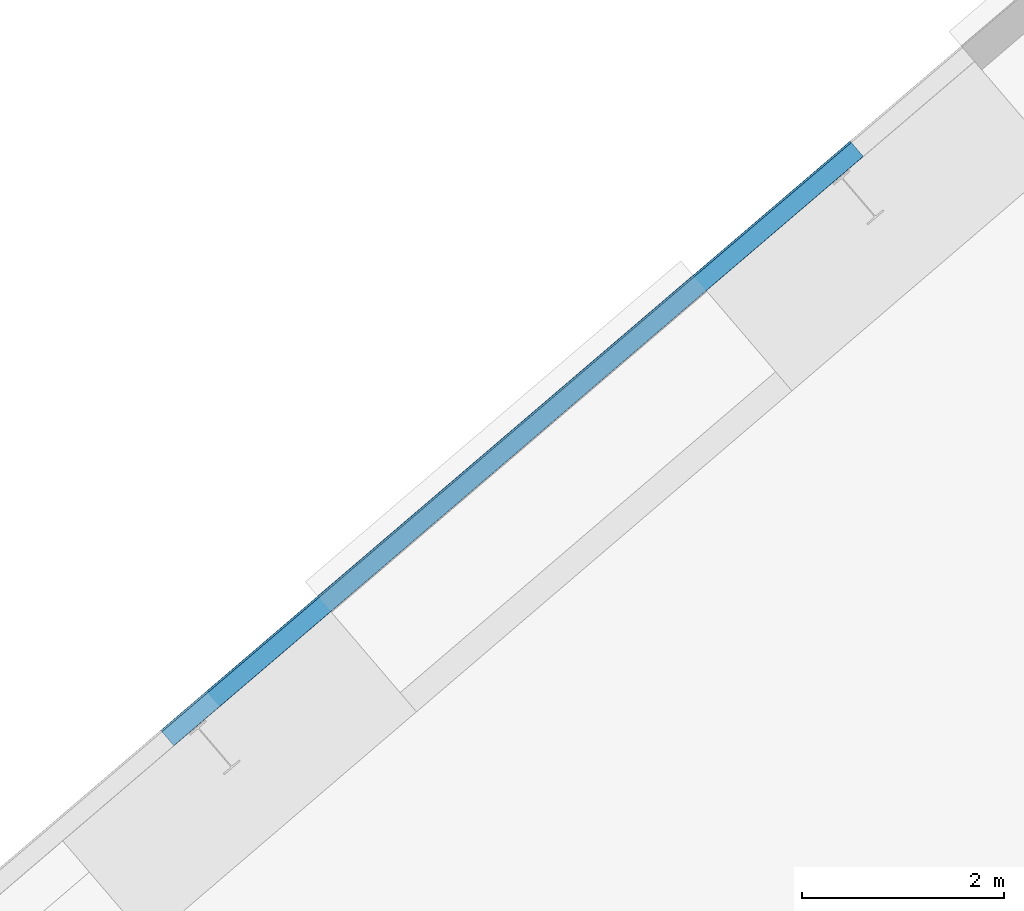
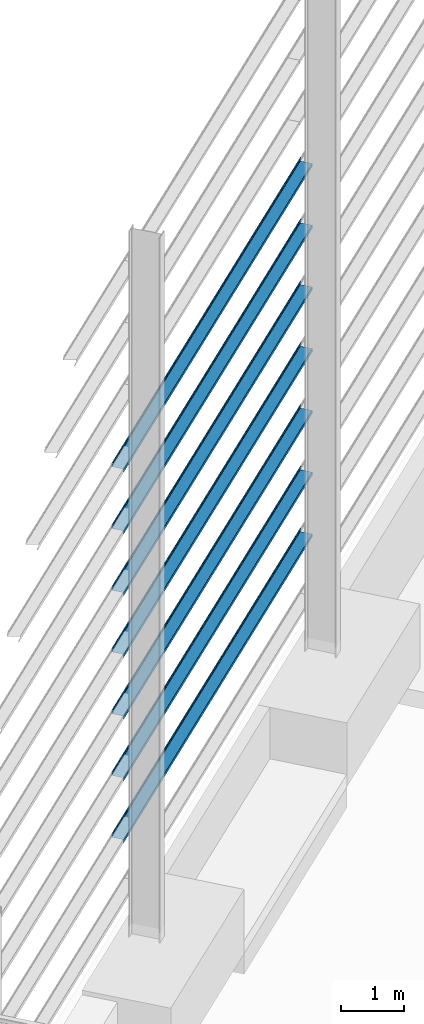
# One storey, part 17 of 41: 7 beams, 1 element without a shape of its own.
"""IFC2X3 building model written with IfcOpenShell, lengths in millimetres."""

from ifc_helpers import new_model, entity, si_unit, converted_unit, derived_unit, direction, frame, frame_2d, origin, place, context, subcontext, project, spatial, polyline, circle_curve, parameter, trimmed, segment, composite_curve, outline, extrude, material, type_object, element, aggregate, save


model = new_model("IFC2X3")

# Units and contexts
model_context = context("Model", 3, precision=0.01, world=origin(), true_north=direction((6.123031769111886e-17, 1.0)))
body_context = subcontext(model_context, "Body", "Model", "MODEL_VIEW")
ifc_project = project(units=[si_unit("LENGTHUNIT", "METRE", prefix="MILLI"), si_unit("AREAUNIT", "SQUARE_METRE"), si_unit("VOLUMEUNIT", "CUBIC_METRE"), converted_unit("PLANEANGLEUNIT", "DEGREE", entity("IfcRatioMeasure", 0.017453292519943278), si_unit("PLANEANGLEUNIT", "RADIAN"), dimensions=[0, 0, 0, 0, 0, 0, 0]), si_unit("MASSUNIT", "GRAM", prefix="KILO"), derived_unit("MASSDENSITYUNIT", [(si_unit("MASSUNIT", "GRAM", prefix="KILO"), 1), (si_unit("LENGTHUNIT", "METRE"), -3)]), derived_unit("MOMENTOFINERTIAUNIT", [(si_unit("LENGTHUNIT", "METRE"), 4)]), si_unit("TIMEUNIT", "SECOND"), si_unit("FREQUENCYUNIT", "HERTZ"), si_unit("THERMODYNAMICTEMPERATUREUNIT", "DEGREE_CELSIUS"), derived_unit("THERMALTRANSMITTANCEUNIT", [(si_unit("MASSUNIT", "GRAM", prefix="KILO"), 1), (si_unit("THERMODYNAMICTEMPERATUREUNIT", "KELVIN"), -1), (si_unit("TIMEUNIT", "SECOND"), -3)]), derived_unit("VOLUMETRICFLOWRATEUNIT", [(si_unit("LENGTHUNIT", "METRE"), 3), (si_unit("TIMEUNIT", "SECOND"), -1)]), derived_unit("MASSFLOWRATEUNIT", [(si_unit("MASSUNIT", "GRAM", prefix="KILO"), 1), (si_unit("TIMEUNIT", "SECOND"), -1)]), derived_unit("ROTATIONALFREQUENCYUNIT", [(si_unit("TIMEUNIT", "SECOND"), -1)]), si_unit("ELECTRICCURRENTUNIT", "AMPERE"), si_unit("ELECTRICVOLTAGEUNIT", "VOLT"), si_unit("POWERUNIT", "WATT"), si_unit("FORCEUNIT", "NEWTON", prefix="KILO"), si_unit("ILLUMINANCEUNIT", "LUX"), si_unit("LUMINOUSFLUXUNIT", "LUMEN"), si_unit("LUMINOUSINTENSITYUNIT", "CANDELA"), derived_unit("USERDEFINED", [(si_unit("MASSUNIT", "GRAM", prefix="KILO"), -1), (si_unit("LENGTHUNIT", "METRE"), -2), (si_unit("TIMEUNIT", "SECOND"), 3), (si_unit("LUMINOUSFLUXUNIT", "LUMEN"), 1)]), derived_unit("SOUNDPOWERUNIT", [(si_unit("MASSUNIT", "GRAM", prefix="KILO"), 1), (si_unit("LENGTHUNIT", "METRE"), 2), (si_unit("TIMEUNIT", "SECOND"), -3)]), derived_unit("LINEARVELOCITYUNIT", [(si_unit("LENGTHUNIT", "METRE"), 1), (si_unit("TIMEUNIT", "SECOND"), -1)]), si_unit("PRESSUREUNIT", "PASCAL"), derived_unit("USERDEFINED", [(si_unit("LENGTHUNIT", "METRE"), -2), (si_unit("MASSUNIT", "GRAM", prefix="KILO"), 1), (si_unit("TIMEUNIT", "SECOND"), -2)]), derived_unit("LINEARFORCEUNIT", [(si_unit("MASSUNIT", "GRAM", prefix="KILO"), 1), (si_unit("LENGTHUNIT", "METRE"), 1), (si_unit("TIMEUNIT", "SECOND"), -2), (si_unit("LENGTHUNIT", "METRE"), -1)]), derived_unit("PLANARFORCEUNIT", [(si_unit("MASSUNIT", "GRAM", prefix="KILO"), 1), (si_unit("LENGTHUNIT", "METRE"), 1), (si_unit("TIMEUNIT", "SECOND"), -2), (si_unit("LENGTHUNIT", "METRE"), -2)])], contexts=[model_context])

# Site, building, storey
site_placement = place(None, frame((962.4174930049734, -6014.433753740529, 0.0), z_axis=(0.0, 0.0, 1.0), x_axis=(0.7601792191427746, 0.649713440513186, 0.0)))
site = spatial("IfcSite", under=ifc_project, at=site_placement, Name="Default", CompositionType="ELEMENT")
building_placement = place(site_placement, origin())
building = spatial("IfcBuilding", under=site, at=building_placement, CompositionType="ELEMENT")
storey_placement = place(building_placement, origin())
storey = spatial("IfcBuildingStorey", under=building, at=storey_placement, Name="Datum", CompositionType="ELEMENT", Elevation=0.0)

# Assembly, beams
assembly_placement = place(building_placement, origin())
assembly = element("IfcElementAssembly", 1, at=assembly_placement, inside=storey, Name="Structural Beam System:Structural Beam System 1", ObjectType="Structural Beam System:Structural Beam System 1", AssemblyPlace="NOTDEFINED", PredefinedType="BEAM_GRID")
ifc_material = material(Name="Metal - Steel - 345 MPa")
beam_type = type_object("IfcBeamType", Name="ADSK_AU_Light Gauge-Zeds:Z20012", PredefinedType="NOTDEFINED")
beam_1_placement = place(building_placement, frame((162039.31020470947, 3669.071917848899, 9013.499999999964)))
beam_1 = element("IfcBeam", 2, at=beam_1_placement, type_object=beam_type, material=ifc_material, Name="ADSK_AU_Light Gauge-Zeds:Z20012", ObjectType="ADSK_AU_Light Gauge-Zeds:Z20012", context=body_context, shape_type="SweptSolid", body=[
    extrude(outline(composite_curve([segment(polyline([(6.4400000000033, -101.50000000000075), (63.24000000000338, -101.50000000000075)]), True, "CONTINUOUS"), segment(trimmed(circle_curve(frame_2d((63.24000000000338, -98.29999999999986), x_axis=(0.0, -1.0)), 3.2000000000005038), [parameter(0.0)], [parameter(89.9999999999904)], True, "PARAMETER"), True, "CONTINUOUS"), segment(polyline([(66.44000000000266, -98.3000000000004), (66.44000000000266, -82.0)]), True, "CONTINUOUS"), segment(polyline([(66.44000000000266, -82.0), (65.24000000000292, -82.0)]), True, "CONTINUOUS"), segment(polyline([(65.24000000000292, -82.0), (65.24000000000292, -98.3000000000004)]), True, "CONTINUOUS"), segment(trimmed(circle_curve(frame_2d((63.24000000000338, -98.30000000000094), x_axis=(1.0, 0.0)), 1.9999999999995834), [parameter(269.99999999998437)], [parameter(0.0)], True, "PARAMETER"), False, "CONTINUOUS"), segment(polyline([(63.24000000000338, -100.30000000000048), (6.4400000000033, -100.30000000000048)]), True, "CONTINUOUS"), segment(trimmed(circle_curve(frame_2d((6.4400000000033, -98.30000000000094), x_axis=(0.0, -1.0)), 1.9999999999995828), [parameter(269.99999999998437)], [parameter(0.0)], True, "PARAMETER"), False, "CONTINUOUS"), segment(polyline([(4.440000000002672, -98.3000000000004), (4.440000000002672, 98.29999999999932)]), True, "CONTINUOUS"), segment(trimmed(circle_curve(frame_2d((1.2400000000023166, 98.29999999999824), x_axis=(1.0, 0.0)), 3.2000000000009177), [parameter(0.0)], [parameter(89.9999999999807)], True, "PARAMETER"), True, "CONTINUOUS"), segment(polyline([(1.2400000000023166, 101.49999999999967), (-68.35999999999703, 101.49999999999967)]), True, "CONTINUOUS"), segment(trimmed(circle_curve(frame_2d((-68.35999999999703, 98.29999999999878), x_axis=(0.0, 1.0)), 3.2000000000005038), [parameter(0.0)], [parameter(89.9999999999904)], True, "PARAMETER"), True, "CONTINUOUS"), segment(polyline([(-71.55999999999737, 98.29999999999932), (-71.55999999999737, 82.0)]), True, "CONTINUOUS"), segment(polyline([(-71.55999999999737, 82.0), (-70.35999999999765, 82.0)]), True, "CONTINUOUS"), segment(polyline([(-70.35999999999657, 82.0), (-70.35999999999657, 98.29999999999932)]), True, "CONTINUOUS"), segment(trimmed(circle_curve(frame_2d((-68.35999999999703, 98.29999999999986), x_axis=(-1.0, 0.0)), 1.9999999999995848), [parameter(269.99999999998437)], [parameter(0.0)], True, "PARAMETER"), False, "CONTINUOUS"), segment(polyline([(-68.35999999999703, 100.2999999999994), (1.2400000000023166, 100.2999999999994)]), True, "CONTINUOUS"), segment(trimmed(circle_curve(frame_2d((1.2400000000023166, 98.29999999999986), x_axis=(0.0, 1.0)), 1.999999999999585), [parameter(269.99999999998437)], [parameter(0.0)], True, "PARAMETER"), False, "CONTINUOUS"), segment(polyline([(3.2400000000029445, 98.29999999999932), (3.2400000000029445, -98.3000000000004)]), True, "CONTINUOUS"), segment(trimmed(circle_curve(frame_2d((6.4400000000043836, -98.29999999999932), x_axis=(-1.0, 0.0)), 3.2000000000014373), [parameter(0.0)], [parameter(89.99999999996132)], True, "PARAMETER"), True, "CONTINUOUS")], self_intersect=False)), frame((0.14999999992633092, 101.50000000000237, 4.440000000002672), z_axis=(1.0, 0.0, 0.0), x_axis=(0.0, 0.0, -1.0)), (0.0, 0.0, 1.0), 8999.000000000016),
])
beam_2_placement = place(building_placement, frame((162039.31020470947, 3669.071917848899, 7813.499999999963)))
beam_2 = element("IfcBeam", 3, at=beam_2_placement, type_object=beam_type, material=ifc_material, Name="ADSK_AU_Light Gauge-Zeds:Z20012", ObjectType="ADSK_AU_Light Gauge-Zeds:Z20012", context=body_context, shape_type="SweptSolid", body=[
    extrude(outline(composite_curve([segment(polyline([(6.440000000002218, -101.50000000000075), (63.2400000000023, -101.50000000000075)]), True, "CONTINUOUS"), segment(trimmed(circle_curve(frame_2d((63.2400000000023, -98.29999999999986), x_axis=(0.0, -1.0)), 3.2000000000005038), [parameter(0.0)], [parameter(89.9999999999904)], True, "PARAMETER"), True, "CONTINUOUS"), segment(polyline([(66.44000000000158, -98.3000000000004), (66.44000000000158, -82.0)]), True, "CONTINUOUS"), segment(polyline([(66.44000000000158, -82.0), (65.24000000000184, -82.0)]), True, "CONTINUOUS"), segment(polyline([(65.24000000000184, -82.0), (65.24000000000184, -98.3000000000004)]), True, "CONTINUOUS"), segment(trimmed(circle_curve(frame_2d((63.2400000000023, -98.30000000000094), x_axis=(1.0, 0.0)), 1.9999999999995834), [parameter(269.99999999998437)], [parameter(0.0)], True, "PARAMETER"), False, "CONTINUOUS"), segment(polyline([(63.2400000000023, -100.30000000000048), (6.440000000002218, -100.30000000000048)]), True, "CONTINUOUS"), segment(trimmed(circle_curve(frame_2d((6.440000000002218, -98.30000000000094), x_axis=(0.0, -1.0)), 1.9999999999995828), [parameter(269.99999999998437)], [parameter(0.0)], True, "PARAMETER"), False, "CONTINUOUS"), segment(polyline([(4.440000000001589, -98.3000000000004), (4.440000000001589, 98.29999999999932)]), True, "CONTINUOUS"), segment(trimmed(circle_curve(frame_2d((1.240000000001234, 98.29999999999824), x_axis=(1.0, 0.0)), 3.2000000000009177), [parameter(0.0)], [parameter(89.9999999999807)], True, "PARAMETER"), True, "CONTINUOUS"), segment(polyline([(1.240000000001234, 101.49999999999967), (-68.35999999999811, 101.49999999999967)]), True, "CONTINUOUS"), segment(trimmed(circle_curve(frame_2d((-68.35999999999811, 98.29999999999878), x_axis=(0.0, 1.0)), 3.2000000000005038), [parameter(0.0)], [parameter(89.9999999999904)], True, "PARAMETER"), True, "CONTINUOUS"), segment(polyline([(-71.55999999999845, 98.29999999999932), (-71.55999999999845, 82.0)]), True, "CONTINUOUS"), segment(polyline([(-71.55999999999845, 82.0), (-70.35999999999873, 82.0)]), True, "CONTINUOUS"), segment(polyline([(-70.35999999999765, 82.0), (-70.35999999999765, 98.29999999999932)]), True, "CONTINUOUS"), segment(trimmed(circle_curve(frame_2d((-68.35999999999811, 98.29999999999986), x_axis=(-1.0, 0.0)), 1.9999999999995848), [parameter(269.99999999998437)], [parameter(0.0)], True, "PARAMETER"), False, "CONTINUOUS"), segment(polyline([(-68.35999999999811, 100.2999999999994), (1.240000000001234, 100.2999999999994)]), True, "CONTINUOUS"), segment(trimmed(circle_curve(frame_2d((1.240000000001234, 98.29999999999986), x_axis=(0.0, 1.0)), 1.999999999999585), [parameter(269.99999999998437)], [parameter(0.0)], True, "PARAMETER"), False, "CONTINUOUS"), segment(polyline([(3.240000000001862, 98.29999999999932), (3.240000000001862, -98.3000000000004)]), True, "CONTINUOUS"), segment(trimmed(circle_curve(frame_2d((6.4400000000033, -98.29999999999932), x_axis=(-1.0, 0.0)), 3.2000000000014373), [parameter(0.0)], [parameter(89.99999999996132)], True, "PARAMETER"), True, "CONTINUOUS")], self_intersect=False)), frame((0.14999999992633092, 101.50000000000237, 4.440000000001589), z_axis=(1.0, 0.0, 0.0), x_axis=(0.0, 0.0, -1.0)), (0.0, 0.0, 1.0), 8999.000000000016),
])
beam_3_placement = place(building_placement, frame((162039.31020470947, 3669.071917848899, 6613.499999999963)))
beam_3 = element("IfcBeam", 4, at=beam_3_placement, type_object=beam_type, material=ifc_material, Name="ADSK_AU_Light Gauge-Zeds:Z20012", ObjectType="ADSK_AU_Light Gauge-Zeds:Z20012", context=body_context, shape_type="SweptSolid", body=[
    extrude(outline(composite_curve([segment(polyline([(6.440000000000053, -101.50000000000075), (63.24000000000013, -101.50000000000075)]), True, "CONTINUOUS"), segment(trimmed(circle_curve(frame_2d((63.24000000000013, -98.29999999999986), x_axis=(0.0, -1.0)), 3.2000000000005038), [parameter(0.0)], [parameter(89.9999999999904)], True, "PARAMETER"), True, "CONTINUOUS"), segment(polyline([(66.43999999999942, -98.3000000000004), (66.43999999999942, -82.0)]), True, "CONTINUOUS"), segment(polyline([(66.43999999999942, -82.0), (65.23999999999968, -82.0)]), True, "CONTINUOUS"), segment(polyline([(65.23999999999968, -82.0), (65.23999999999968, -98.3000000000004)]), True, "CONTINUOUS"), segment(trimmed(circle_curve(frame_2d((63.24000000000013, -98.30000000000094), x_axis=(1.0, 0.0)), 1.9999999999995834), [parameter(269.99999999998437)], [parameter(0.0)], True, "PARAMETER"), False, "CONTINUOUS"), segment(polyline([(63.24000000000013, -100.30000000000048), (6.440000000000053, -100.30000000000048)]), True, "CONTINUOUS"), segment(trimmed(circle_curve(frame_2d((6.440000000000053, -98.30000000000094), x_axis=(0.0, -1.0)), 1.9999999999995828), [parameter(269.99999999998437)], [parameter(0.0)], True, "PARAMETER"), False, "CONTINUOUS"), segment(polyline([(4.439999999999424, -98.3000000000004), (4.439999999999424, 98.29999999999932)]), True, "CONTINUOUS"), segment(trimmed(circle_curve(frame_2d((1.2399999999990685, 98.29999999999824), x_axis=(1.0, 0.0)), 3.2000000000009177), [parameter(0.0)], [parameter(89.9999999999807)], True, "PARAMETER"), True, "CONTINUOUS"), segment(polyline([(1.2399999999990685, 101.49999999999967), (-68.36000000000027, 101.49999999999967)]), True, "CONTINUOUS"), segment(trimmed(circle_curve(frame_2d((-68.36000000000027, 98.29999999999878), x_axis=(0.0, 1.0)), 3.2000000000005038), [parameter(0.0)], [parameter(89.9999999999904)], True, "PARAMETER"), True, "CONTINUOUS"), segment(polyline([(-71.56000000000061, 98.29999999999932), (-71.56000000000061, 82.0)]), True, "CONTINUOUS"), segment(polyline([(-71.56000000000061, 82.0), (-70.3600000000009, 82.0)]), True, "CONTINUOUS"), segment(polyline([(-70.35999999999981, 82.0), (-70.35999999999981, 98.29999999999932)]), True, "CONTINUOUS"), segment(trimmed(circle_curve(frame_2d((-68.36000000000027, 98.29999999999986), x_axis=(-1.0, 0.0)), 1.9999999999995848), [parameter(269.99999999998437)], [parameter(0.0)], True, "PARAMETER"), False, "CONTINUOUS"), segment(polyline([(-68.36000000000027, 100.2999999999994), (1.2399999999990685, 100.2999999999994)]), True, "CONTINUOUS"), segment(trimmed(circle_curve(frame_2d((1.2399999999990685, 98.29999999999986), x_axis=(0.0, 1.0)), 1.999999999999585), [parameter(269.99999999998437)], [parameter(0.0)], True, "PARAMETER"), False, "CONTINUOUS"), segment(polyline([(3.2399999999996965, 98.29999999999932), (3.2399999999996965, -98.3000000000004)]), True, "CONTINUOUS"), segment(trimmed(circle_curve(frame_2d((6.440000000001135, -98.29999999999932), x_axis=(-1.0, 0.0)), 3.2000000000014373), [parameter(0.0)], [parameter(89.99999999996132)], True, "PARAMETER"), True, "CONTINUOUS")], self_intersect=False)), frame((0.14999999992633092, 101.50000000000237, 4.439999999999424), z_axis=(1.0, 0.0, 0.0), x_axis=(0.0, 0.0, -1.0)), (0.0, 0.0, 1.0), 8999.000000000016),
])
beam_4_placement = place(building_placement, frame((162039.31020470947, 3669.071917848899, 5413.499999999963)))
beam_4 = element("IfcBeam", 5, at=beam_4_placement, type_object=beam_type, material=ifc_material, Name="ADSK_AU_Light Gauge-Zeds:Z20012", ObjectType="ADSK_AU_Light Gauge-Zeds:Z20012", context=body_context, shape_type="SweptSolid", body=[
    extrude(outline(composite_curve([segment(polyline([(6.439999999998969, -101.50000000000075), (63.23999999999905, -101.50000000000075)]), True, "CONTINUOUS"), segment(trimmed(circle_curve(frame_2d((63.23999999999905, -98.29999999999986), x_axis=(0.0, -1.0)), 3.2000000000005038), [parameter(0.0)], [parameter(89.9999999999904)], True, "PARAMETER"), True, "CONTINUOUS"), segment(polyline([(66.43999999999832, -98.3000000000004), (66.43999999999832, -82.0)]), True, "CONTINUOUS"), segment(polyline([(66.43999999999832, -82.0), (65.23999999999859, -82.0)]), True, "CONTINUOUS"), segment(polyline([(65.23999999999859, -82.0), (65.23999999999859, -98.3000000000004)]), True, "CONTINUOUS"), segment(trimmed(circle_curve(frame_2d((63.23999999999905, -98.30000000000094), x_axis=(1.0, 0.0)), 1.9999999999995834), [parameter(269.99999999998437)], [parameter(0.0)], True, "PARAMETER"), False, "CONTINUOUS"), segment(polyline([(63.23999999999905, -100.30000000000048), (6.439999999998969, -100.30000000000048)]), True, "CONTINUOUS"), segment(trimmed(circle_curve(frame_2d((6.439999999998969, -98.30000000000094), x_axis=(0.0, -1.0)), 1.9999999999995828), [parameter(269.99999999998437)], [parameter(0.0)], True, "PARAMETER"), False, "CONTINUOUS"), segment(polyline([(4.439999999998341, -98.3000000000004), (4.439999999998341, 98.29999999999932)]), True, "CONTINUOUS"), segment(trimmed(circle_curve(frame_2d((1.2399999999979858, 98.29999999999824), x_axis=(1.0, 0.0)), 3.2000000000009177), [parameter(0.0)], [parameter(89.9999999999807)], True, "PARAMETER"), True, "CONTINUOUS"), segment(polyline([(1.2399999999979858, 101.49999999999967), (-68.36000000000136, 101.49999999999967)]), True, "CONTINUOUS"), segment(trimmed(circle_curve(frame_2d((-68.36000000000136, 98.29999999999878), x_axis=(0.0, 1.0)), 3.2000000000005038), [parameter(0.0)], [parameter(89.9999999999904)], True, "PARAMETER"), True, "CONTINUOUS"), segment(polyline([(-71.56000000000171, 98.29999999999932), (-71.56000000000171, 82.0)]), True, "CONTINUOUS"), segment(polyline([(-71.56000000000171, 82.0), (-70.36000000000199, 82.0)]), True, "CONTINUOUS"), segment(polyline([(-70.36000000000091, 82.0), (-70.36000000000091, 98.29999999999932)]), True, "CONTINUOUS"), segment(trimmed(circle_curve(frame_2d((-68.36000000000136, 98.29999999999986), x_axis=(-1.0, 0.0)), 1.9999999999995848), [parameter(269.99999999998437)], [parameter(0.0)], True, "PARAMETER"), False, "CONTINUOUS"), segment(polyline([(-68.36000000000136, 100.2999999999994), (1.2399999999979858, 100.2999999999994)]), True, "CONTINUOUS"), segment(trimmed(circle_curve(frame_2d((1.2399999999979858, 98.29999999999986), x_axis=(0.0, 1.0)), 1.999999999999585), [parameter(269.99999999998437)], [parameter(0.0)], True, "PARAMETER"), False, "CONTINUOUS"), segment(polyline([(3.2399999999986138, 98.29999999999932), (3.2399999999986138, -98.3000000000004)]), True, "CONTINUOUS"), segment(trimmed(circle_curve(frame_2d((6.440000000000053, -98.29999999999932), x_axis=(-1.0, 0.0)), 3.2000000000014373), [parameter(0.0)], [parameter(89.99999999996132)], True, "PARAMETER"), True, "CONTINUOUS")], self_intersect=False)), frame((0.14999999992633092, 101.50000000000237, 4.439999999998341), z_axis=(1.0, 0.0, 0.0), x_axis=(0.0, 0.0, -1.0)), (0.0, 0.0, 1.0), 8999.000000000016),
])
beam_5_placement = place(building_placement, frame((162039.31020470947, 3669.071917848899, 4213.499999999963)))
beam_5 = element("IfcBeam", 6, at=beam_5_placement, type_object=beam_type, material=ifc_material, Name="ADSK_AU_Light Gauge-Zeds:Z20012", ObjectType="ADSK_AU_Light Gauge-Zeds:Z20012", context=body_context, shape_type="SweptSolid", body=[
    extrude(outline(composite_curve([segment(polyline([(6.439999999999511, -101.50000000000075), (63.23999999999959, -101.50000000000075)]), True, "CONTINUOUS"), segment(trimmed(circle_curve(frame_2d((63.24000000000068, -98.30000000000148), x_axis=(0.0, -1.0)), 3.199999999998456), [parameter(0.0)], [parameter(90.00000000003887)], True, "PARAMETER"), True, "CONTINUOUS"), segment(polyline([(66.43999999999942, -98.3000000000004), (66.43999999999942, -82.0)]), True, "CONTINUOUS"), segment(polyline([(66.43999999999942, -82.0), (65.23999999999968, -82.0)]), True, "CONTINUOUS"), segment(polyline([(65.23999999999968, -82.0), (65.23999999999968, -98.3000000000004)]), True, "CONTINUOUS"), segment(trimmed(circle_curve(frame_2d((63.23999999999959, -98.3000000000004), x_axis=(1.0, 0.0)), 2.0000000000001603), [parameter(269.9999999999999)], [parameter(0.0)], True, "PARAMETER"), False, "CONTINUOUS"), segment(polyline([(63.23999999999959, -100.30000000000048), (6.439999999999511, -100.30000000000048)]), True, "CONTINUOUS"), segment(trimmed(circle_curve(frame_2d((6.439999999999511, -98.3000000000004), x_axis=(0.0, -1.0)), 2.000000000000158), [parameter(269.9999999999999)], [parameter(0.0)], True, "PARAMETER"), False, "CONTINUOUS"), segment(polyline([(4.439999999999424, -98.3000000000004), (4.439999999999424, 98.29999999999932)]), True, "CONTINUOUS"), segment(trimmed(circle_curve(frame_2d((1.240000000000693, 98.3000000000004), x_axis=(1.0, 0.0)), 3.199999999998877), [parameter(0.0)], [parameter(90.00000000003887)], True, "PARAMETER"), True, "CONTINUOUS"), segment(polyline([(1.2399999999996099, 101.49999999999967), (-68.36000000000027, 101.49999999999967)]), True, "CONTINUOUS"), segment(trimmed(circle_curve(frame_2d((-68.36000000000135, 98.3000000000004), x_axis=(0.0, 1.0)), 3.199999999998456), [parameter(0.0)], [parameter(90.00000000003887)], True, "PARAMETER"), True, "CONTINUOUS"), segment(polyline([(-71.56000000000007, 98.29999999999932), (-71.56000000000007, 82.0)]), True, "CONTINUOUS"), segment(polyline([(-71.56000000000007, 82.0), (-70.35999999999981, 82.0)]), True, "CONTINUOUS"), segment(polyline([(-70.36000000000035, 82.0), (-70.36000000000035, 98.29999999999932)]), True, "CONTINUOUS"), segment(trimmed(circle_curve(frame_2d((-68.36000000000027, 98.29999999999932), x_axis=(-1.0, 0.0)), 2.000000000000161), [parameter(269.9999999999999)], [parameter(0.0)], True, "PARAMETER"), False, "CONTINUOUS"), segment(polyline([(-68.36000000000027, 100.2999999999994), (1.2399999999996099, 100.2999999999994)]), True, "CONTINUOUS"), segment(trimmed(circle_curve(frame_2d((1.2399999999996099, 98.29999999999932), x_axis=(0.0, 1.0)), 2.0000000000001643), [parameter(269.9999999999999)], [parameter(0.0)], True, "PARAMETER"), False, "CONTINUOUS"), segment(polyline([(3.2399999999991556, 98.29999999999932), (3.2399999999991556, -98.3000000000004)]), True, "CONTINUOUS"), segment(trimmed(circle_curve(frame_2d((6.439999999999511, -98.3000000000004), x_axis=(-1.0, 0.0)), 3.200000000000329), [parameter(0.0)], [parameter(90.00000000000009)], True, "PARAMETER"), True, "CONTINUOUS")], self_intersect=False)), frame((0.14999999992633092, 101.50000000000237, 4.439999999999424), z_axis=(1.0, 0.0, 0.0), x_axis=(0.0, 0.0, -1.0)), (0.0, 0.0, 1.0), 8999.000000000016),
])
beam_6_placement = place(building_placement, frame((162039.31020470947, 3669.071917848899, 3013.4999999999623)))
beam_6 = element("IfcBeam", 7, at=beam_6_placement, type_object=beam_type, material=ifc_material, Name="ADSK_AU_Light Gauge-Zeds:Z20012", ObjectType="ADSK_AU_Light Gauge-Zeds:Z20012", context=body_context, shape_type="SweptSolid", body=[
    extrude(outline(composite_curve([segment(polyline([(6.440000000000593, -101.50000000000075), (63.24000000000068, -101.50000000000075)]), True, "CONTINUOUS"), segment(trimmed(circle_curve(frame_2d((63.240000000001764, -98.30000000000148), x_axis=(0.0, -1.0)), 3.199999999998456), [parameter(0.0)], [parameter(90.00000000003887)], True, "PARAMETER"), True, "CONTINUOUS"), segment(polyline([(66.4400000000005, -98.3000000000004), (66.4400000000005, -82.0)]), True, "CONTINUOUS"), segment(polyline([(66.4400000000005, -82.0), (65.24000000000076, -82.0)]), True, "CONTINUOUS"), segment(polyline([(65.24000000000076, -82.0), (65.24000000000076, -98.3000000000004)]), True, "CONTINUOUS"), segment(trimmed(circle_curve(frame_2d((63.24000000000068, -98.3000000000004), x_axis=(1.0, 0.0)), 2.0000000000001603), [parameter(269.9999999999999)], [parameter(0.0)], True, "PARAMETER"), False, "CONTINUOUS"), segment(polyline([(63.24000000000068, -100.30000000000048), (6.440000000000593, -100.30000000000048)]), True, "CONTINUOUS"), segment(trimmed(circle_curve(frame_2d((6.440000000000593, -98.3000000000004), x_axis=(0.0, -1.0)), 2.000000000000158), [parameter(269.9999999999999)], [parameter(0.0)], True, "PARAMETER"), False, "CONTINUOUS"), segment(polyline([(4.440000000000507, -98.3000000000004), (4.440000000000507, 98.29999999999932)]), True, "CONTINUOUS"), segment(trimmed(circle_curve(frame_2d((1.2400000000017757, 98.3000000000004), x_axis=(1.0, 0.0)), 3.199999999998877), [parameter(0.0)], [parameter(90.00000000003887)], True, "PARAMETER"), True, "CONTINUOUS"), segment(polyline([(1.2400000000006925, 101.49999999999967), (-68.35999999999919, 101.49999999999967)]), True, "CONTINUOUS"), segment(trimmed(circle_curve(frame_2d((-68.36000000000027, 98.3000000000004), x_axis=(0.0, 1.0)), 3.199999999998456), [parameter(0.0)], [parameter(90.00000000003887)], True, "PARAMETER"), True, "CONTINUOUS"), segment(polyline([(-71.559999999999, 98.29999999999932), (-71.559999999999, 82.0)]), True, "CONTINUOUS"), segment(polyline([(-71.559999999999, 82.0), (-70.35999999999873, 82.0)]), True, "CONTINUOUS"), segment(polyline([(-70.35999999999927, 82.0), (-70.35999999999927, 98.29999999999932)]), True, "CONTINUOUS"), segment(trimmed(circle_curve(frame_2d((-68.35999999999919, 98.29999999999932), x_axis=(-1.0, 0.0)), 2.000000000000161), [parameter(269.9999999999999)], [parameter(0.0)], True, "PARAMETER"), False, "CONTINUOUS"), segment(polyline([(-68.35999999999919, 100.2999999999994), (1.2400000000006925, 100.2999999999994)]), True, "CONTINUOUS"), segment(trimmed(circle_curve(frame_2d((1.2400000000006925, 98.29999999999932), x_axis=(0.0, 1.0)), 2.0000000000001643), [parameter(269.9999999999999)], [parameter(0.0)], True, "PARAMETER"), False, "CONTINUOUS"), segment(polyline([(3.2400000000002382, 98.29999999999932), (3.2400000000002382, -98.3000000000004)]), True, "CONTINUOUS"), segment(trimmed(circle_curve(frame_2d((6.440000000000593, -98.3000000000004), x_axis=(-1.0, 0.0)), 3.200000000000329), [parameter(0.0)], [parameter(90.00000000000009)], True, "PARAMETER"), True, "CONTINUOUS")], self_intersect=False)), frame((0.14999999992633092, 101.50000000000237, 4.440000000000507), z_axis=(1.0, 0.0, 0.0), x_axis=(0.0, 0.0, -1.0)), (0.0, 0.0, 1.0), 8999.000000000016),
])
beam_7_placement = place(building_placement, frame((162039.31020470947, 3669.071917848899, 1813.4999999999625)))
beam_7 = element("IfcBeam", 8, at=beam_7_placement, type_object=beam_type, material=ifc_material, Name="ADSK_AU_Light Gauge-Zeds:Z20012", ObjectType="ADSK_AU_Light Gauge-Zeds:Z20012", context=body_context, shape_type="SweptSolid", body=[
    extrude(outline(composite_curve([segment(polyline([(6.440000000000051, -101.50000000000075), (63.24000000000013, -101.50000000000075)]), True, "CONTINUOUS"), segment(trimmed(circle_curve(frame_2d((63.24000000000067, -98.30000000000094), x_axis=(0.0, -1.0)), 3.1999999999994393), [parameter(0.0)], [parameter(90.00000000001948)], True, "PARAMETER"), True, "CONTINUOUS"), segment(polyline([(66.44000000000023, -98.3000000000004), (66.44000000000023, -82.0)]), True, "CONTINUOUS"), segment(polyline([(66.44000000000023, -82.0), (65.24000000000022, -82.0)]), True, "CONTINUOUS"), segment(polyline([(65.24000000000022, -82.0), (65.24000000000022, -98.3000000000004)]), True, "CONTINUOUS"), segment(trimmed(circle_curve(frame_2d((63.24000000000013, -98.3000000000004), x_axis=(1.0, 0.0)), 2.0000000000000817), [parameter(269.9999999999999)], [parameter(0.0)], True, "PARAMETER"), False, "CONTINUOUS"), segment(polyline([(63.24000000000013, -100.30000000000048), (6.440000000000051, -100.30000000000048)]), True, "CONTINUOUS"), segment(trimmed(circle_curve(frame_2d((6.440000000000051, -98.3000000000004), x_axis=(0.0, -1.0)), 2.0000000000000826), [parameter(269.9999999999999)], [parameter(0.0)], True, "PARAMETER"), False, "CONTINUOUS"), segment(polyline([(4.439999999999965, -98.3000000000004), (4.439999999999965, 98.29999999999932)]), True, "CONTINUOUS"), segment(trimmed(circle_curve(frame_2d((1.2400000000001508, 98.29999999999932), x_axis=(1.0, 0.0)), 3.199999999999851), [parameter(0.0)], [parameter(90.00000000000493)], True, "PARAMETER"), True, "CONTINUOUS"), segment(polyline([(1.2399999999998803, 101.49999999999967), (-68.36, 101.49999999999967)]), True, "CONTINUOUS"), segment(trimmed(circle_curve(frame_2d((-68.36000000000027, 98.29999999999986), x_axis=(0.0, 1.0)), 3.1999999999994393), [parameter(0.0)], [parameter(90.00000000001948)], True, "PARAMETER"), True, "CONTINUOUS"), segment(polyline([(-71.5599999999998, 98.29999999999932), (-71.5599999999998, 82.0)]), True, "CONTINUOUS"), segment(polyline([(-71.5599999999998, 82.0), (-70.35999999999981, 82.0)]), True, "CONTINUOUS"), segment(polyline([(-70.35999999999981, 82.0), (-70.35999999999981, 98.29999999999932)]), True, "CONTINUOUS"), segment(trimmed(circle_curve(frame_2d((-68.35999999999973, 98.29999999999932), x_axis=(-1.0, 0.0)), 2.000000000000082), [parameter(269.9999999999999)], [parameter(0.0)], True, "PARAMETER"), False, "CONTINUOUS"), segment(polyline([(-68.35999999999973, 100.2999999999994), (1.2400000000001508, 100.2999999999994)]), True, "CONTINUOUS"), segment(trimmed(circle_curve(frame_2d((1.2399999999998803, 98.29999999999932), x_axis=(0.0, 1.0)), 2.0000000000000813), [parameter(269.9999999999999)], [parameter(0.0)], True, "PARAMETER"), False, "CONTINUOUS"), segment(polyline([(3.239999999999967, 98.29999999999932), (3.239999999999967, -98.3000000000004)]), True, "CONTINUOUS"), segment(trimmed(circle_curve(frame_2d((6.440000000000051, -98.3000000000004), x_axis=(-1.0, 0.0)), 3.2000000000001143), [parameter(0.0)], [parameter(90.00000000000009)], True, "PARAMETER"), True, "CONTINUOUS")], self_intersect=False)), frame((0.14999999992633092, 101.50000000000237, 4.439999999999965), z_axis=(1.0, 0.0, 0.0), x_axis=(0.0, 0.0, -1.0)), (0.0, 0.0, 1.0), 8999.000000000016),
])
aggregate(assembly, [beam_1, beam_2, beam_3, beam_4, beam_5, beam_6, beam_7])

save(model, "model.ifc")
